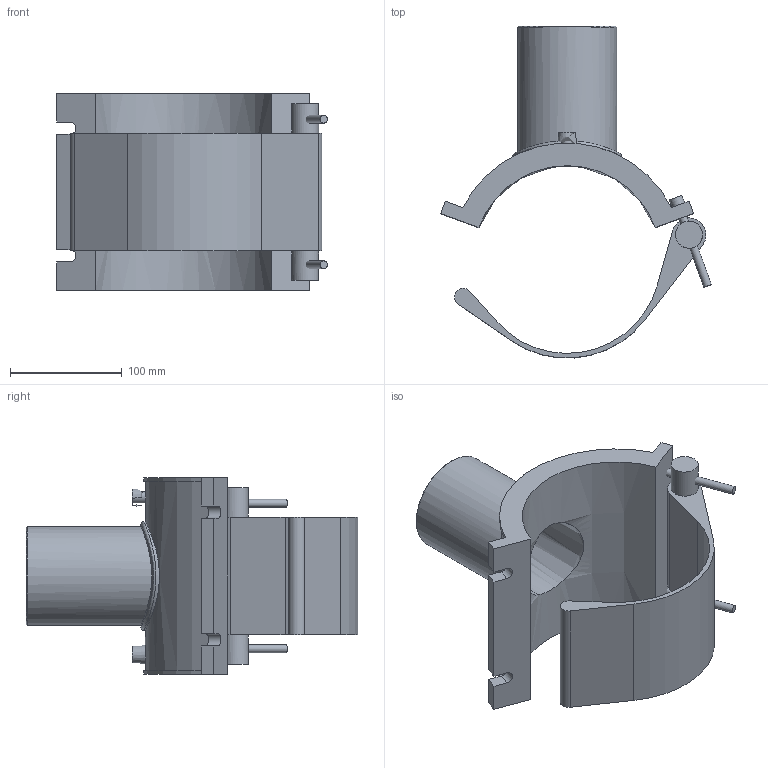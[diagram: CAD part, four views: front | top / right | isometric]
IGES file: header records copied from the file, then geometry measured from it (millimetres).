
Global section: file name: 5958BB03060030.ipt; native system: Autodesk Inventor 2019; preprocessor: unknown; author: KIM; date: 20210830.101300; units: inch
Bounding box: 242.48 x 297.19 x 176.02 mm (x, y, z)
Volume: 1319251.5 mm3; surface area: 244627.1 mm2
Topology: 5 solids, 5 shells, 65 faces, 135 edges, 91 vertices
Faces by surface type: plane 37, cylinder 17, revolution 7, cone 3, bspline 1
Full cylindrical faces by diameter (mm): 4 x2, 7.056 x2, 11.76 x2, 24.192 x2, 88.7 x1, 97.57 x1
